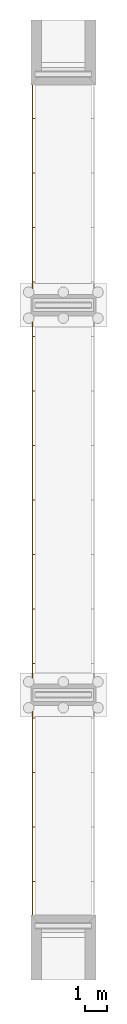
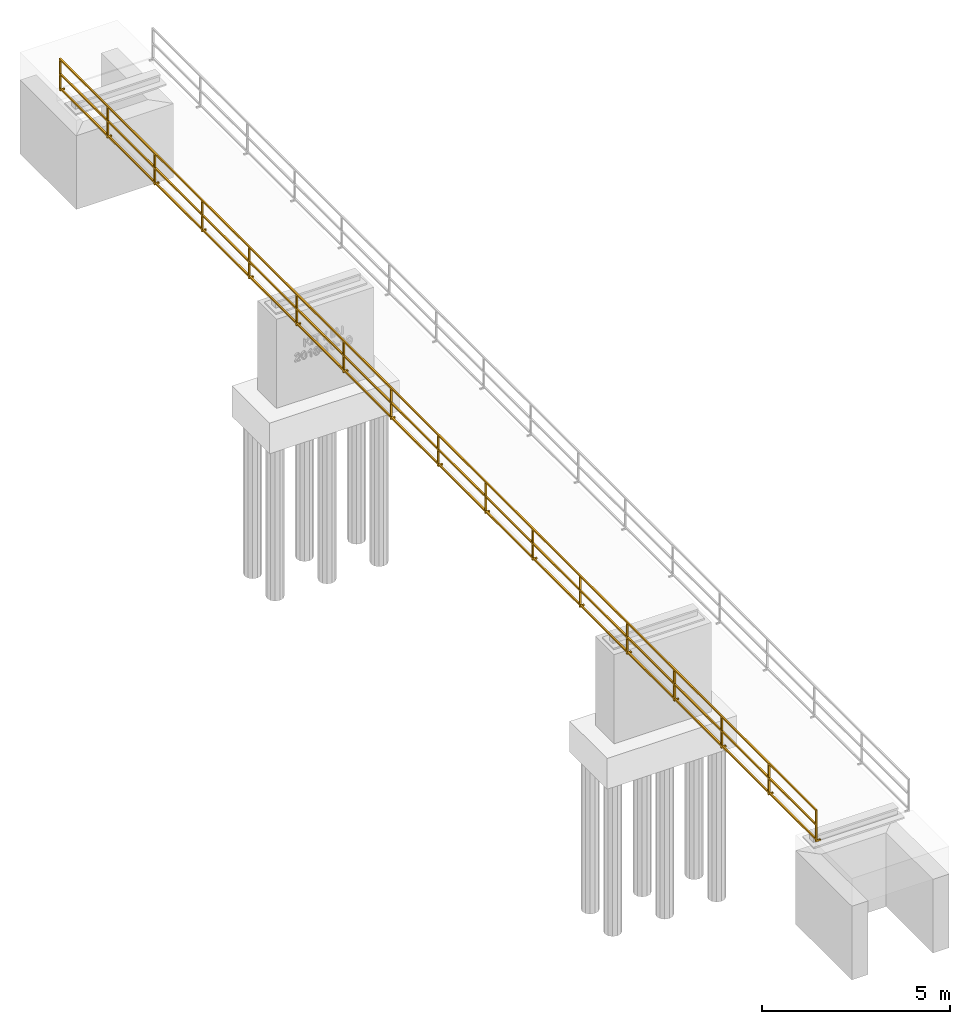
# Not in any storey, part 3 of 5: 1 railing.
"""IFC4X2 model written with IfcOpenShell, lengths in millimetres."""

from ifc_helpers import new_model, entity, si_unit, converted_unit, direction, frame, origin, origin_with_axes, place, context, project, spatial, faceted_brep, element, save


model = new_model("IFC4X2")

# Units and contexts
model_context = context("Model", 3, precision=1e-05, world=origin(), true_north=direction((0.0, 1.0)))
ifc_project = project(units=[si_unit("LENGTHUNIT", "METRE", prefix="MILLI"), si_unit("AREAUNIT", "SQUARE_METRE"), si_unit("VOLUMEUNIT", "CUBIC_METRE"), converted_unit("PLANEANGLEUNIT", "DEGREE", entity("IfcPlaneAngleMeasure", 0.01745), si_unit("PLANEANGLEUNIT", "RADIAN"), dimensions=[0, 0, 0, 0, 0, 0, 0]), si_unit("SOLIDANGLEUNIT", "STERADIAN"), si_unit("MASSUNIT", "GRAM"), si_unit("TIMEUNIT", "SECOND"), si_unit("THERMODYNAMICTEMPERATUREUNIT", "DEGREE_CELSIUS"), si_unit("LUMINOUSINTENSITYUNIT", "LUMEN")], contexts=[model_context])

# Site, bridge, bridge part
placement = place(None, origin_with_axes())
site_placement = place(placement, frame((-19933.8083659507, -30174.99999999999, -13595.54569832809), z_axis=(0.0, 0.0, 1.0), x_axis=(1.0, 0.0, 0.0)))
site = spatial("IfcSite", under=ifc_project, at=site_placement, Name="Default Site", CompositionType="ELEMENT")
bridge_placement = place(placement, origin_with_axes())
bridge = spatial("IfcBridge", under=site, at=bridge_placement, Name="KIT - Bridge", CompositionType="ELEMENT")
bridge_part_placement = place(bridge_placement, origin_with_axes())
bridge_part = spatial("IfcBridgePart", under=bridge, at=bridge_part_placement, Name="Superstructure", CompositionType="ELEMENT", PredefinedType="SUBSTRUCTURE")

# Railing
railing_placement = place(bridge_part_placement, frame((550.0000000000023, 9974.999999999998, 3249.999999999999), z_axis=(0.0, 0.0, 1.0), x_axis=(1.0, 0.0, 0.0)))
element("IfcRailing", 1, at=railing_placement, inside=bridge_part, Name="Railing-01", context=model_context, shape_type="Brep", body=[
    faceted_brep([(0.0, 0.0, 0.0), (-7.219114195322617e-13, -5.775291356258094e-12, 50.00000000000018), (-2.165734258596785e-12, -2468.750000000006, 50.00000000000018), (-2.165734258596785e-12, -2468.750000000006, 0.0), (-2.165734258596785e-12, -2518.750000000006, 0.0), (-2.165734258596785e-12, -2518.750000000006, 50.00000000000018), (-2.165734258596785e-12, -4987.500000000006, 50.00000000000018), (-2.165734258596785e-12, -4987.500000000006, 0.0), (-2.165734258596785e-12, -5037.500000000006, 0.0), (-2.165734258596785e-12, -5037.500000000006, 50.00000000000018), (-7.219114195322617e-13, -7506.250000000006, 50.00000000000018), (-7.219114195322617e-13, -7506.250000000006, 0.0), (-7.219114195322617e-13, -7556.250000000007, 0.0), (-7.219114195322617e-13, -7556.250000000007, 50.00000000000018), (-2.165734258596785e-12, -10025.0, 50.00000000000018), (-2.165734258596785e-12, -10025.0, 0.0), (-2.165734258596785e-12, -10075.0, 0.0), (-2.165734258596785e-12, -10075.0, 50.00000000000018), (-2.887645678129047e-12, -12543.75, 50.00000000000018), (-2.887645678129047e-12, -12543.75, 0.0), (-2.165734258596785e-12, -12593.75, 0.0), (-2.165734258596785e-12, -12593.75, 50.00000000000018), (-2.165734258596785e-12, -15062.5, 50.00000000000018), (-2.165734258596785e-12, -15062.5, 0.0), (-2.165734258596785e-12, -15112.5, 0.0), (-2.165734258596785e-12, -15112.5, 50.00000000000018), (-7.219114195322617e-13, -17581.25, 50.00000000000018), (-7.219114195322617e-13, -17581.25, 0.0), (-7.219114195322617e-13, -17631.25, 0.0), (-7.219114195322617e-13, -17631.25, 50.00000000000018), (-2.165734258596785e-12, -20100.0, 50.00000000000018), (-2.165734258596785e-12, -20100.0, 0.0), (-2.165734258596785e-12, -20150.0, 0.0), (-2.165734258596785e-12, -20150.0, 1050.0), (0.0, 20200.0, 1050.0), (0.0, 20200.0, 0.0), (0.0, 20150.0, 0.0), (0.0, 20150.0, 50.00000000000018), (0.0, 17681.25, 50.00000000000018), (0.0, 17681.25, 0.0), (0.0, 17631.25, 0.0), (0.0, 17631.25, 50.00000000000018), (-2.887645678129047e-12, 15162.5, 50.00000000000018), (-2.887645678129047e-12, 15162.5, 0.0), (-2.887645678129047e-12, 15112.5, 0.0), (-2.887645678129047e-12, 15112.5, 50.00000000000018), (0.0, 12643.75, 50.00000000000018), (0.0, 12643.75, 0.0), (0.0, 12593.75, 0.0), (0.0, 12593.75, 50.00000000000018), (0.0, 10125.0, 50.00000000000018), (0.0, 10125.0, 0.0), (0.0, 10075.0, 0.0), (0.0, 10075.0, 50.00000000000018), (-2.887645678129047e-12, 7606.250000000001, 50.00000000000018), (-2.887645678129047e-12, 7606.250000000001, 0.0), (0.0, 7556.250000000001, 0.0), (0.0, 7556.250000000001, 50.00000000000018), (-2.887645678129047e-12, 5087.500000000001, 50.00000000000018), (-2.887645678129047e-12, 5087.500000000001, 0.0), (-2.887645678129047e-12, 5037.500000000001, 0.0), (-2.887645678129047e-12, 5037.500000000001, 50.00000000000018), (0.0, 2568.75, 50.00000000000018), (0.0, 2568.75, 0.0), (0.0, 2518.75, 0.0), (0.0, 2518.75, 50.00000000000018), (0.0, 50.00000000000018, 50.00000000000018), (0.0, 50.00000000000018, 0.0), (-7.219114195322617e-13, -5.775291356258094e-12, 100.0000000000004), (-7.219114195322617e-13, -5.775291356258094e-12, 525.0000000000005), (-2.165734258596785e-12, -2468.750000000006, 525.0000000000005), (-2.165734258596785e-12, -2468.750000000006, 100.0000000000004), (0.0, 50.00000000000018, 1000.0), (0.0, 50.00000000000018, 575.0000000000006), (0.0, 2518.75, 575.0000000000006), (0.0, 2518.75, 1000.0), (0.0, 50.00000000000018, 525.0000000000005), (0.0, 50.00000000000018, 100.0000000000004), (0.0, 2518.75, 100.0000000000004), (0.0, 2518.75, 525.0000000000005), (-7.219114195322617e-13, -5.775291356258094e-12, 575.0000000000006), (-7.219114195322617e-13, -5.775291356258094e-12, 1000.0), (-2.165734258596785e-12, -2468.750000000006, 1000.0), (-2.165734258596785e-12, -2468.750000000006, 575.0000000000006), (-2.165734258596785e-12, -2518.750000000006, 575.0000000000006), (-2.165734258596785e-12, -2518.750000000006, 1000.0), (-2.165734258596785e-12, -4987.500000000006, 1000.0), (-2.165734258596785e-12, -4987.500000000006, 575.0000000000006), (-2.165734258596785e-12, -2518.750000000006, 100.0000000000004), (-2.165734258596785e-12, -2518.750000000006, 525.0000000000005), (-2.165734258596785e-12, -4987.500000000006, 525.0000000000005), (-2.165734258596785e-12, -4987.500000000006, 100.0000000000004), (-2.165734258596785e-12, -5037.500000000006, 575.0000000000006), (-2.165734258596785e-12, -5037.500000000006, 1000.0), (-7.219114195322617e-13, -7506.250000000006, 1000.0), (-7.219114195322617e-13, -7506.250000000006, 575.0000000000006), (-2.165734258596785e-12, -5037.500000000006, 100.0000000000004), (-2.165734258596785e-12, -5037.500000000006, 525.0000000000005), (-7.219114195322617e-13, -7506.250000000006, 525.0000000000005), (-7.219114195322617e-13, -7506.250000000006, 100.0000000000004), (-7.219114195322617e-13, -7556.250000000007, 575.0000000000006), (-7.219114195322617e-13, -7556.250000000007, 1000.0), (-2.165734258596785e-12, -10025.0, 1000.0), (-2.165734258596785e-12, -10025.0, 575.0000000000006), (-7.219114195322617e-13, -7556.250000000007, 100.0000000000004), (-7.219114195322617e-13, -7556.250000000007, 525.0000000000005), (-2.165734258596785e-12, -10025.0, 525.0000000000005), (-2.165734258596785e-12, -10025.0, 100.0000000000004), (-7.219114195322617e-13, -17631.25, 100.0000000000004), (-7.219114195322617e-13, -17631.25, 525.0000000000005), (-2.165734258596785e-12, -20100.0, 525.0000000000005), (-2.165734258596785e-12, -20100.0, 100.0000000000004), (-7.219114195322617e-13, -17631.25, 575.0000000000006), (-7.219114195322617e-13, -17631.25, 1000.0), (-2.165734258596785e-12, -20100.0, 1000.0), (-2.165734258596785e-12, -20100.0, 575.0000000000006), (-2.165734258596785e-12, -15112.5, 100.0000000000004), (-2.165734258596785e-12, -15112.5, 525.0000000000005), (-7.219114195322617e-13, -17581.25, 525.0000000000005), (-7.219114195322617e-13, -17581.25, 100.0000000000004), (-2.165734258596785e-12, -15112.5, 575.0000000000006), (-2.165734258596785e-12, -15112.5, 1000.0), (-7.219114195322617e-13, -17581.25, 1000.0), (-7.219114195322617e-13, -17581.25, 575.0000000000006), (-2.165734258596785e-12, -15062.5, 525.0000000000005), (-2.165734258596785e-12, -15062.5, 100.0000000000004), (-2.165734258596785e-12, -12593.75, 100.0000000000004), (-2.165734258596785e-12, -12593.75, 525.0000000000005), (-2.165734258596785e-12, -15062.5, 1000.0), (-2.165734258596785e-12, -15062.5, 575.0000000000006), (-2.165734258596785e-12, -12593.75, 575.0000000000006), (-2.165734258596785e-12, -12593.75, 1000.0), (-2.887645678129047e-12, -12543.75, 525.0000000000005), (-2.887645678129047e-12, -12543.75, 100.0000000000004), (-2.165734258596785e-12, -10075.0, 100.0000000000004), (-2.165734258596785e-12, -10075.0, 525.0000000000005), (-2.887645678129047e-12, -12543.75, 1000.0), (-2.887645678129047e-12, -12543.75, 575.0000000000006), (-2.165734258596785e-12, -10075.0, 575.0000000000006), (-2.165734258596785e-12, -10075.0, 1000.0), (0.0, 17681.25, 1000.0), (0.0, 17681.25, 575.0000000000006), (0.0, 20150.0, 575.0000000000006), (0.0, 20150.0, 1000.0), (0.0, 17681.25, 525.0000000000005), (0.0, 17681.25, 100.0000000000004), (0.0, 20150.0, 100.0000000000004), (0.0, 20150.0, 525.0000000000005), (0.0, 17631.25, 100.0000000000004), (0.0, 17631.25, 525.0000000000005), (-2.887645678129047e-12, 15162.5, 525.0000000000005), (-2.887645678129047e-12, 15162.5, 100.0000000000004), (0.0, 17631.25, 575.0000000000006), (0.0, 17631.25, 1000.0), (-2.887645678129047e-12, 15162.5, 1000.0), (-2.887645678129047e-12, 15162.5, 575.0000000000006), (-2.887645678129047e-12, 15112.5, 100.0000000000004), (-2.887645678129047e-12, 15112.5, 525.0000000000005), (0.0, 12643.75, 525.0000000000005), (0.0, 12643.75, 100.0000000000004), (-2.887645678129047e-12, 15112.5, 575.0000000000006), (-2.887645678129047e-12, 15112.5, 1000.0), (0.0, 12643.75, 1000.0), (0.0, 12643.75, 575.0000000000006), (0.0, 12593.75, 100.0000000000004), (0.0, 12593.75, 525.0000000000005), (0.0, 10125.0, 525.0000000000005), (0.0, 10125.0, 100.0000000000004), (0.0, 12593.75, 575.0000000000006), (0.0, 12593.75, 1000.0), (0.0, 10125.0, 1000.0), (0.0, 10125.0, 575.0000000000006), (-2.887645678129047e-12, 7606.249999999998, 525.0000000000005), (-2.887645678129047e-12, 7606.250000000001, 100.0000000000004), (0.0, 10075.0, 100.0000000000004), (0.0, 10075.0, 525.0000000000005), (-2.887645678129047e-12, 7606.249999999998, 1000.0), (-2.887645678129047e-12, 7606.249999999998, 575.0000000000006), (0.0, 10075.0, 575.0000000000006), (0.0, 10075.0, 1000.0), (0.0, 7556.249999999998, 575.0000000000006), (0.0, 7556.249999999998, 1000.0), (-2.887645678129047e-12, 5087.500000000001, 1000.0), (-2.887645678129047e-12, 5087.500000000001, 575.0000000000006), (0.0, 7556.249999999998, 100.0000000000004), (0.0, 7556.249999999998, 525.0000000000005), (-2.887645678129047e-12, 5087.500000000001, 525.0000000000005), (-2.887645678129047e-12, 5087.500000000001, 100.0000000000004), (0.0, 2568.75, 525.0000000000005), (0.0, 2568.75, 100.0000000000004), (-2.887645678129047e-12, 5037.500000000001, 100.0000000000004), (-2.887645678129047e-12, 5037.500000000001, 525.0000000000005), (0.0, 2568.75, 1000.0), (0.0, 2568.75, 575.0000000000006), (-2.887645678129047e-12, 5037.500000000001, 575.0000000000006), (-2.887645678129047e-12, 5037.500000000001, 1000.0), (149.9999999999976, -20100.0, 50.00000000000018), (149.9999999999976, -20150.0, 50.00000000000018), (149.9999999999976, -20150.0, 0.0), (149.9999999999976, -20100.0, 0.0), (49.99999999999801, -20100.0, 50.00000000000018), (49.99999999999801, -20150.0, 50.00000000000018), (49.99999999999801, -10075.0, 50.00000000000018), (49.99999999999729, -12543.75, 50.00000000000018), (149.9999999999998, 50.00000000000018, 0.0), (149.9999999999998, 0.0, 0.0), (149.9999999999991, -7506.250000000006, 0.0), (149.9999999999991, -7556.250000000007, 0.0), (49.99999999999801, -15112.5, 50.00000000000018), (49.99999999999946, -17581.25, 50.00000000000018), (49.99999999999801, -12593.75, 50.00000000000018), (49.99999999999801, -15062.5, 50.00000000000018), (49.99999999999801, -2518.750000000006, 50.00000000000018), (49.99999999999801, -4987.500000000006, 50.00000000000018), (149.9999999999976, -10075.0, 0.0), (149.9999999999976, -10075.0, 50.00000000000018), (149.9999999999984, -15112.5, 0.0), (149.9999999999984, -15112.5, 50.00000000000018), (49.99999999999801, -5037.500000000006, 50.00000000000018), (49.99999999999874, -7506.250000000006, 50.00000000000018), (149.9999999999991, -7506.250000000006, 50.00000000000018), (49.99999999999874, -7556.250000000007, 50.00000000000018), (49.99999999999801, -10025.0, 50.00000000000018), (149.9999999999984, -15062.5, 50.00000000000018), (149.9999999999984, -15062.5, 0.0), (149.9999999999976, -5037.500000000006, 0.0), (149.9999999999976, -5037.500000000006, 50.00000000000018), (149.9999999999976, -4987.500000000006, 50.00000000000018), (149.9999999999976, -4987.500000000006, 0.0), (149.9999999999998, 50.00000000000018, 50.00000000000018), (50.00000000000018, 50.00000000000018, 50.00000000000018), (50.00000000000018, 0.0, 50.00000000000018), (149.9999999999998, 0.0, 50.00000000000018), (49.99999999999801, -20150.0, 1050.0), (149.9999999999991, -7556.250000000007, 50.00000000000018), (149.9999999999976, -10025.0, 0.0), (149.9999999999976, -10025.0, 50.00000000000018), (149.9999999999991, -17631.25, 50.00000000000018), (149.9999999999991, -17581.25, 50.00000000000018), (49.99999999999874, -17631.25, 50.00000000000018), (149.9999999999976, -12543.75, 50.00000000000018), (149.9999999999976, -12593.75, 50.00000000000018), (149.9999999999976, -12593.75, 0.0), (149.9999999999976, -12543.75, 0.0), (149.9999999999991, -17631.25, 0.0), (149.9999999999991, -17581.25, 0.0), (49.99999999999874, -5.775291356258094e-12, 100.0000000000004), (49.99999999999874, -5.775291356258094e-12, 525.0000000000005), (49.99999999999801, -15062.5, 1000.0), (49.99999999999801, -15062.5, 575.0000000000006), (49.99999999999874, -7556.250000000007, 1000.0), (49.99999999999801, -10025.0, 1000.0), (49.99999999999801, -2468.750000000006, 525.0000000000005), (49.99999999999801, -2468.750000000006, 100.0000000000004), (49.99999999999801, -15112.5, 575.0000000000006), (49.99999999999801, -15112.5, 1000.0), (49.99999999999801, -12593.75, 575.0000000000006), (49.99999999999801, -12593.75, 1000.0), (49.99999999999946, -17581.25, 1000.0), (49.99999999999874, -7556.250000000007, 575.0000000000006), (49.99999999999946, -17581.25, 575.0000000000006), (49.99999999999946, 2518.75, 50.00000000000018), (50.00000000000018, 2568.75, 50.00000000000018), (49.99999999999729, 5037.500000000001, 50.00000000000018), (49.99999999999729, 5087.500000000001, 50.00000000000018), (50.00000000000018, 7556.250000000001, 50.00000000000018), (49.99999999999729, 7606.250000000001, 50.00000000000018), (50.00000000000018, 10075.0, 50.00000000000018), (50.00000000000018, 10125.0, 50.00000000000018), (49.99999999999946, 12593.75, 50.00000000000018), (49.99999999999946, 12643.75, 50.00000000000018), (49.99999999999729, 15112.5, 50.00000000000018), (49.99999999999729, 15162.5, 50.00000000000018), (50.00000000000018, 17631.25, 50.00000000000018), (50.00000000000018, 17681.25, 50.00000000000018), (49.99999999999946, 20150.0, 50.00000000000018), (49.99999999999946, 20200.0, 50.00000000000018), (49.99999999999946, 20200.0, 1050.0), (49.99999999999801, -2468.750000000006, 50.00000000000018), (49.99999999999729, -12543.75, 575.0000000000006), (49.99999999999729, -12543.75, 1000.0), (49.99999999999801, -10075.0, 1000.0), (49.99999999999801, -10075.0, 575.0000000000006), (49.99999999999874, -7506.250000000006, 525.0000000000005), (49.99999999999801, -5037.500000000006, 525.0000000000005), (49.99999999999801, -5037.500000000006, 100.0000000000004), (49.99999999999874, -7506.250000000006, 100.0000000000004), (49.99999999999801, -4987.500000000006, 525.0000000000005), (49.99999999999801, -2518.750000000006, 525.0000000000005), (49.99999999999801, -2518.750000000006, 100.0000000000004), (49.99999999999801, -4987.500000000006, 100.0000000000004), (49.99999999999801, -10025.0, 575.0000000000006), (49.99999999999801, -20100.0, 575.0000000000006), (49.99999999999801, -20100.0, 1000.0), (49.99999999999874, -17631.25, 1000.0), (49.99999999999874, -17631.25, 575.0000000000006), (49.99999999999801, -20100.0, 525.0000000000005), (49.99999999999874, -17631.25, 525.0000000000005), (49.99999999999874, -17631.25, 100.0000000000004), (49.99999999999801, -20100.0, 100.0000000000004), (49.99999999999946, -17581.25, 525.0000000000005), (49.99999999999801, -15112.5, 525.0000000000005), (49.99999999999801, -15112.5, 100.0000000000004), (49.99999999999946, -17581.25, 100.0000000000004), (49.99999999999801, -2468.750000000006, 575.0000000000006), (49.99999999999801, -2468.750000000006, 1000.0), (49.99999999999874, -5.775291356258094e-12, 1000.0), (49.99999999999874, -5.775291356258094e-12, 575.0000000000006), (49.99999999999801, -4987.500000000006, 575.0000000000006), (49.99999999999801, -4987.500000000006, 1000.0), (49.99999999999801, -2518.750000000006, 1000.0), (49.99999999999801, -2518.750000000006, 575.0000000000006), (49.99999999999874, -7506.250000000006, 575.0000000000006), (49.99999999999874, -7506.250000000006, 1000.0), (49.99999999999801, -5037.500000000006, 1000.0), (49.99999999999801, -5037.500000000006, 575.0000000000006), (49.99999999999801, -10025.0, 525.0000000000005), (49.99999999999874, -7556.250000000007, 525.0000000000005), (49.99999999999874, -7556.250000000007, 100.0000000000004), (49.99999999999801, -10025.0, 100.0000000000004), (49.99999999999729, -12543.75, 525.0000000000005), (49.99999999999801, -10075.0, 525.0000000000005), (49.99999999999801, -10075.0, 100.0000000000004), (49.99999999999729, -12543.75, 100.0000000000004), (49.99999999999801, -15062.5, 525.0000000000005), (49.99999999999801, -12593.75, 525.0000000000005), (49.99999999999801, -12593.75, 100.0000000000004), (49.99999999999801, -15062.5, 100.0000000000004), (49.99999999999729, 5087.500000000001, 525.0000000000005), (50.00000000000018, 7556.249999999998, 525.0000000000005), (50.00000000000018, 7556.249999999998, 100.0000000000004), (49.99999999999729, 5087.500000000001, 100.0000000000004), (49.99999999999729, 7606.249999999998, 525.0000000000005), (50.00000000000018, 10075.0, 525.0000000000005), (50.00000000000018, 10075.0, 100.0000000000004), (49.99999999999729, 7606.250000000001, 100.0000000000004), (50.00000000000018, 10125.0, 525.0000000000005), (49.99999999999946, 12593.75, 525.0000000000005), (49.99999999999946, 12593.75, 100.0000000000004), (50.00000000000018, 10125.0, 100.0000000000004), (49.99999999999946, 12643.75, 575.0000000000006), (49.99999999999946, 12643.75, 1000.0), (49.99999999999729, 15112.5, 1000.0), (49.99999999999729, 15112.5, 575.0000000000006), (49.99999999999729, 15162.5, 575.0000000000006), (49.99999999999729, 15162.5, 1000.0), (50.00000000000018, 17631.25, 1000.0), (50.00000000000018, 17631.25, 575.0000000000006), (50.00000000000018, 17681.25, 575.0000000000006), (50.00000000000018, 17681.25, 1000.0), (49.99999999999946, 20150.0, 1000.0), (49.99999999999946, 20150.0, 575.0000000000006), (50.00000000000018, 2568.75, 525.0000000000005), (49.99999999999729, 5037.500000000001, 525.0000000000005), (49.99999999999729, 5037.500000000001, 100.0000000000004), (50.00000000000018, 2568.75, 100.0000000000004), (50.00000000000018, 17681.25, 525.0000000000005), (49.99999999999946, 20150.0, 525.0000000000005), (49.99999999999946, 20150.0, 100.0000000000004), (50.00000000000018, 17681.25, 100.0000000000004), (49.99999999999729, 5087.500000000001, 575.0000000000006), (49.99999999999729, 5087.500000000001, 1000.0), (50.00000000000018, 7556.249999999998, 1000.0), (50.00000000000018, 7556.249999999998, 575.0000000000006), (50.00000000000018, 2568.75, 575.0000000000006), (50.00000000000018, 2568.75, 1000.0), (49.99999999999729, 5037.500000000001, 1000.0), (49.99999999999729, 5037.500000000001, 575.0000000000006), (50.00000000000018, 10125.0, 575.0000000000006), (50.00000000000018, 10125.0, 1000.0), (49.99999999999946, 12593.75, 1000.0), (49.99999999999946, 12593.75, 575.0000000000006), (49.99999999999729, 15162.5, 525.0000000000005), (50.00000000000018, 17631.25, 525.0000000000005), (50.00000000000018, 17631.25, 100.0000000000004), (49.99999999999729, 15162.5, 100.0000000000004), (49.99999999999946, 12643.75, 525.0000000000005), (49.99999999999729, 15112.5, 525.0000000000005), (49.99999999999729, 15112.5, 100.0000000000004), (49.99999999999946, 12643.75, 100.0000000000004), (49.99999999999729, 7606.249999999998, 575.0000000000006), (49.99999999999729, 7606.249999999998, 1000.0), (50.00000000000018, 10075.0, 1000.0), (50.00000000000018, 10075.0, 575.0000000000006), (49.99999999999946, 2518.75, 575.0000000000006), (50.00000000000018, 50.00000000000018, 575.0000000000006), (50.00000000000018, 50.00000000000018, 1000.0), (49.99999999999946, 2518.75, 1000.0), (49.99999999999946, 2518.75, 100.0000000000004), (50.00000000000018, 50.00000000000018, 100.0000000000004), (50.00000000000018, 50.00000000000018, 525.0000000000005), (49.99999999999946, 2518.75, 525.0000000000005), (149.9999999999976, -2468.750000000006, 50.00000000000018), (149.9999999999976, -2468.750000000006, 0.0), (149.9999999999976, -2518.750000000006, 0.0), (149.9999999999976, -2518.750000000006, 50.00000000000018), (149.9999999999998, 10075.0, 0.0), (149.9999999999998, 10075.0, 50.00000000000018), (149.9999999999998, 10125.0, 0.0), (149.9999999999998, 10125.0, 50.00000000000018), (149.9999999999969, 15162.5, 50.00000000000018), (149.9999999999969, 15162.5, 0.0), (149.9999999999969, 15112.5, 0.0), (149.9999999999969, 15112.5, 50.00000000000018), (149.9999999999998, 12643.75, 0.0), (149.9999999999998, 12593.75, 0.0), (149.9999999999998, 12643.75, 50.00000000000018), (149.9999999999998, 12593.75, 50.00000000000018), (149.9999999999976, 5037.500000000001, 0.0), (149.9999999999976, 5037.500000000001, 50.00000000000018), (149.9999999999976, 5087.500000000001, 50.00000000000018), (149.9999999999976, 5087.500000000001, 0.0), (149.9999999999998, 20200.0, 50.00000000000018), (149.9999999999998, 20150.0, 50.00000000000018), (149.9999999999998, 20200.0, 0.0), (149.9999999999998, 20150.0, 0.0), (149.9999999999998, 7556.250000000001, 0.0), (149.9999999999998, 7556.250000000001, 50.00000000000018), (149.9999999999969, 7606.250000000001, 50.00000000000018), (149.9999999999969, 7606.250000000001, 0.0), (149.9999999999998, 2518.75, 50.00000000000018), (149.9999999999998, 2568.75, 50.00000000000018), (149.9999999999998, 2518.75, 0.0), (149.9999999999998, 2568.75, 0.0), (149.9999999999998, 17681.25, 50.00000000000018), (149.9999999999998, 17631.25, 50.00000000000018), (149.9999999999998, 17631.25, 0.0), (149.9999999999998, 17681.25, 0.0)], [[[0, 1, 2, 3, 4, 5, 6, 7, 8, 9, 10, 11, 12, 13, 14, 15, 16, 17, 18, 19, 20, 21, 22, 23, 24, 25, 26, 27, 28, 29, 30, 31, 32, 33, 34, 35, 36, 37, 38, 39, 40, 41, 42, 43, 44, 45, 46, 47, 48, 49, 50, 51, 52, 53, 54, 55, 56, 57, 58, 59, 60, 61, 62, 63, 64, 65, 66, 67], [68, 69, 70, 71], [72, 73, 74, 75], [76, 77, 78, 79], [80, 81, 82, 83], [84, 85, 86, 87], [88, 89, 90, 91], [92, 93, 94, 95], [96, 97, 98, 99], [100, 101, 102, 103], [104, 105, 106, 107], [108, 109, 110, 111], [112, 113, 114, 115], [116, 117, 118, 119], [120, 121, 122, 123], [124, 125, 126, 127], [128, 129, 130, 131], [132, 133, 134, 135], [136, 137, 138, 139], [140, 141, 142, 143], [144, 145, 146, 147], [148, 149, 150, 151], [152, 153, 154, 155], [156, 157, 158, 159], [160, 161, 162, 163], [164, 165, 166, 167], [168, 169, 170, 171], [172, 173, 174, 175], [176, 177, 178, 179], [180, 181, 182, 183], [184, 185, 186, 187], [188, 189, 190, 191], [192, 193, 194, 195]], [[196, 197, 198, 199]], [[197, 196, 200, 201]], [[202, 203, 18, 17]], [[67, 204, 205, 0]], [[206, 207, 12, 11]], [[26, 25, 208, 209]], [[22, 21, 210, 211]], [[212, 213, 6, 5]], [[16, 214, 215, 202, 17]], [[24, 216, 217, 208, 25]], [[218, 219, 10, 9]], [[219, 220, 206, 11, 10]], [[221, 222, 14, 13]], [[211, 223, 224, 23, 22]], [[8, 225, 226, 218, 9]], [[200, 196, 199, 31, 30]], [[213, 227, 228, 7, 6]], [[229, 230, 231, 232]], [[199, 198, 32, 31]], [[197, 201, 233, 33, 32, 198]], [[1, 0, 205, 232, 231]], [[12, 207, 234, 221, 13]], [[224, 216, 24, 23]], [[228, 225, 8, 7]], [[235, 214, 16, 15]], [[222, 236, 235, 15, 14]], [[237, 238, 209, 239]], [[240, 241, 242, 243]], [[223, 217, 216, 224]], [[217, 223, 211, 208]], [[226, 227, 213, 218]], [[227, 226, 225, 228]], [[215, 236, 222, 202]], [[203, 240, 243, 19, 18]], [[234, 220, 219, 221]], [[20, 242, 241, 210, 21]], [[238, 237, 244, 245]], [[220, 234, 207, 206]], [[236, 215, 214, 235]], [[243, 242, 20, 19]], [[241, 240, 203, 210]], [[69, 68, 246, 247]], [[129, 128, 248, 249]], [[102, 101, 250, 251]], [[71, 70, 252, 253]], [[121, 120, 254, 255]], [[68, 71, 253, 246]], [[204, 229, 232, 205]], [[70, 69, 247, 252]], [[131, 130, 256, 257]], [[122, 121, 255, 258]], [[130, 129, 249, 256]], [[101, 100, 259, 250]], [[123, 122, 258, 260]], [[231, 230, 261, 262, 263, 264, 265, 266, 267, 268, 269, 270, 271, 272, 273, 274, 275, 276, 277, 233, 201, 200, 239, 209, 208, 211, 210, 203, 202, 222, 221, 219, 218, 213, 212, 278], [279, 280, 281, 282], [283, 284, 285, 286], [287, 288, 289, 290], [291, 251, 250, 259], [260, 258, 255, 254], [249, 248, 257, 256], [252, 247, 246, 253], [292, 293, 294, 295], [296, 297, 298, 299], [300, 301, 302, 303], [304, 305, 306, 307], [308, 309, 310, 311], [312, 313, 314, 315], [316, 317, 318, 319], [320, 321, 322, 323], [324, 325, 326, 327], [328, 329, 330, 331], [332, 333, 334, 335], [336, 337, 338, 339], [340, 341, 342, 343], [344, 345, 346, 347], [348, 349, 350, 351], [352, 353, 354, 355], [356, 357, 358, 359], [360, 361, 362, 363], [364, 365, 366, 367], [368, 369, 370, 371], [372, 373, 374, 375], [376, 377, 378, 379], [380, 381, 382, 383], [384, 385, 386, 387], [388, 389, 390, 391]], [[128, 131, 257, 248]], [[120, 123, 260, 254]], [[136, 139, 281, 280]], [[233, 277, 34, 33]], [[138, 137, 279, 282]], [[96, 99, 286, 285]], [[90, 89, 288, 287]], [[88, 91, 290, 289]], [[100, 103, 291, 259]], [[137, 136, 280, 279]], [[89, 88, 289, 288]], [[97, 96, 285, 284]], [[139, 138, 282, 281]], [[30, 29, 239, 200]], [[103, 102, 251, 291]], [[91, 90, 287, 290]], [[98, 97, 284, 283]], [[99, 98, 283, 286]], [[278, 392, 393, 3, 2]], [[114, 113, 294, 293]], [[112, 115, 292, 295]], [[119, 118, 300, 303]], [[80, 83, 304, 307]], [[209, 238, 245, 27, 26]], [[393, 394, 4, 3]], [[392, 395, 394, 393]], [[4, 394, 395, 212, 5]], [[395, 392, 278, 212]], [[28, 244, 237, 239, 29]], [[81, 80, 307, 306]], [[231, 278, 2, 1]], [[245, 244, 28, 27]], [[83, 82, 305, 304]], [[92, 95, 312, 315]], [[85, 84, 311, 310]], [[86, 85, 310, 309]], [[82, 81, 306, 305]], [[115, 114, 293, 292]], [[87, 86, 309, 308]], [[95, 94, 313, 312]], [[110, 109, 297, 296]], [[94, 93, 314, 313]], [[117, 116, 302, 301]], [[109, 108, 298, 297]], [[93, 92, 315, 314]], [[118, 117, 301, 300]], [[84, 87, 308, 311]], [[113, 112, 295, 294]], [[116, 119, 303, 302]], [[111, 110, 296, 299]], [[134, 133, 323, 322]], [[125, 124, 324, 327]], [[105, 104, 318, 317]], [[127, 126, 326, 325]], [[108, 111, 299, 298]], [[104, 107, 319, 318]], [[124, 127, 325, 324]], [[132, 135, 321, 320]], [[126, 125, 327, 326]], [[106, 105, 317, 316]], [[133, 132, 320, 323]], [[107, 106, 316, 319]], [[135, 134, 322, 321]], [[230, 229, 204, 67, 66]], [[52, 396, 397, 267, 53]], [[271, 270, 46, 45]], [[398, 396, 52, 51]], [[268, 399, 398, 51, 50]], [[269, 268, 50, 49]], [[272, 400, 401, 43, 42]], [[44, 402, 403, 271, 45]], [[404, 405, 48, 47]], [[270, 406, 404, 47, 46]], [[62, 61, 263, 262]], [[401, 402, 44, 43]], [[48, 405, 407, 269, 49]], [[273, 272, 42, 41]], [[58, 57, 265, 264]], [[60, 408, 409, 263, 61]], [[267, 266, 54, 53]], [[264, 410, 411, 59, 58]], [[411, 408, 60, 59]], [[412, 276, 275, 413]], [[35, 414, 415, 36]], [[37, 36, 415, 413, 275]], [[414, 412, 413, 415]], [[403, 400, 272, 271]], [[400, 403, 402, 401]], [[407, 406, 270, 269]], [[406, 407, 405, 404]], [[397, 399, 268, 267]], [[399, 397, 396, 398]], [[56, 416, 417, 265, 57]], [[409, 410, 264, 263]], [[266, 418, 419, 55, 54]], [[419, 416, 56, 55]], [[417, 418, 266, 265]], [[418, 417, 416, 419]], [[410, 409, 408, 411]], [[420, 421, 262, 261]], [[421, 420, 422, 423]], [[146, 145, 359, 358]], [[145, 144, 356, 359]], [[182, 181, 362, 361]], [[169, 168, 371, 370]], [[183, 182, 361, 360]], [[192, 195, 366, 365]], [[147, 146, 358, 357]], [[170, 169, 370, 369]], [[195, 194, 367, 366]], [[180, 183, 360, 363]], [[144, 147, 357, 356]], [[181, 180, 363, 362]], [[194, 193, 364, 367]], [[193, 192, 365, 364]], [[168, 171, 368, 371]], [[171, 170, 369, 368]], [[151, 150, 372, 375]], [[176, 179, 382, 381]], [[277, 276, 412, 414, 35, 34]], [[149, 148, 374, 373]], [[156, 159, 379, 378]], [[157, 156, 378, 377]], [[158, 157, 377, 376]], [[177, 176, 381, 380]], [[159, 158, 376, 379]], [[179, 178, 383, 382]], [[178, 177, 380, 383]], [[148, 151, 375, 374]], [[150, 149, 373, 372]], [[66, 65, 261, 230]], [[424, 425, 426, 427]], [[262, 421, 423, 63, 62]], [[425, 424, 274, 273]], [[274, 424, 427, 39, 38]], [[64, 422, 420, 261, 65]], [[275, 274, 38, 37]], [[40, 426, 425, 273, 41]], [[427, 426, 40, 39]], [[423, 422, 64, 63]], [[72, 75, 387, 386]], [[74, 73, 385, 384]], [[189, 188, 352, 355]], [[142, 141, 348, 351]], [[141, 140, 349, 348]], [[160, 163, 340, 343]], [[143, 142, 351, 350]], [[163, 162, 341, 340]], [[162, 161, 342, 341]], [[161, 160, 343, 342]], [[188, 191, 353, 352]], [[77, 76, 390, 389]], [[154, 153, 346, 345]], [[153, 152, 347, 346]], [[79, 78, 388, 391]], [[152, 155, 344, 347]], [[76, 79, 391, 390]], [[73, 72, 386, 385]], [[191, 190, 354, 353]], [[75, 74, 384, 387]], [[155, 154, 345, 344]], [[140, 143, 350, 349]], [[190, 189, 355, 354]], [[78, 77, 389, 388]], [[186, 185, 329, 328]], [[167, 166, 336, 339]], [[185, 184, 330, 329]], [[174, 173, 335, 334]], [[173, 172, 332, 335]], [[165, 164, 338, 337]], [[175, 174, 334, 333]], [[184, 187, 331, 330]], [[164, 167, 339, 338]], [[187, 186, 328, 331]], [[166, 165, 337, 336]], [[172, 175, 333, 332]]]),
])

save(model, "model.ifc")
